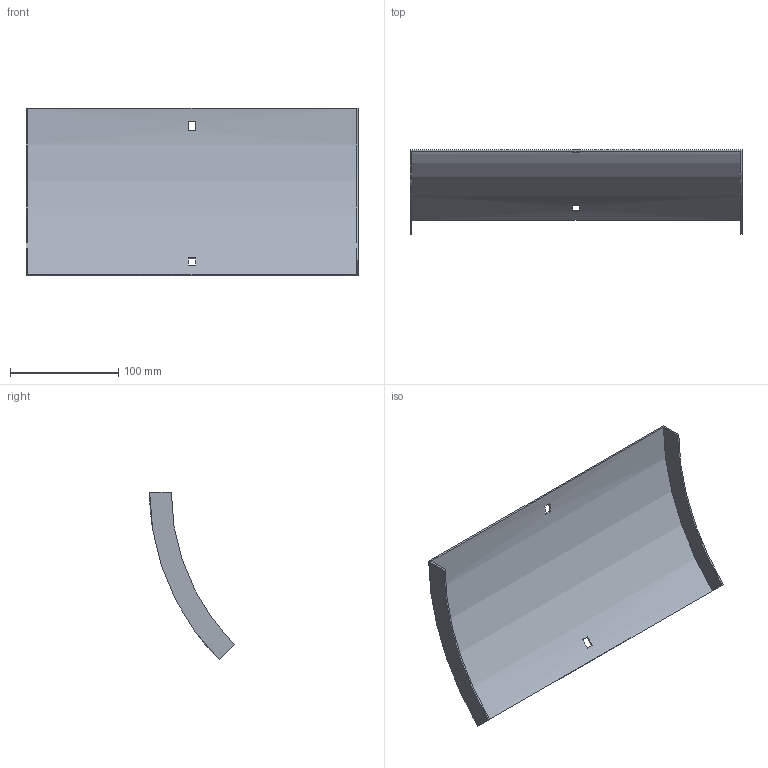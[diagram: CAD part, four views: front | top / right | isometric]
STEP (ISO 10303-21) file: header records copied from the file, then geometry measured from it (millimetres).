
FILE_DESCRIPTION (( 'STEP AP214' ), '1' );
FILE_NAME ('34N1J300.step', '2025-02-21T09:14:25', ( '' ), ( '' ), 'SwSTEP 2.0', 'SolidWorks 2023', '' );
FILE_SCHEMA (( 'AUTOMOTIVE_DESIGN' ));
Length unit declared in the file: millimetre
Products named in the file (1): 34N1J300
Bounding box: 307 x 78.29 x 154.86 mm (x, y, z)
Volume: 87837.3 mm3; surface area: 118712.3 mm2
Topology: 1 solids, 1 shells, 18 faces, 48 edges, 32 vertices
Faces by surface type: plane 14, cylinder 4
Entity records: 599 total; most frequent: DIRECTION 102, CARTESIAN_POINT 99, ORIENTED_EDGE 96, EDGE_CURVE 48, AXIS2_PLACEMENT_3D 35, VERTEX_POINT 32, LINE 32, VECTOR 32
